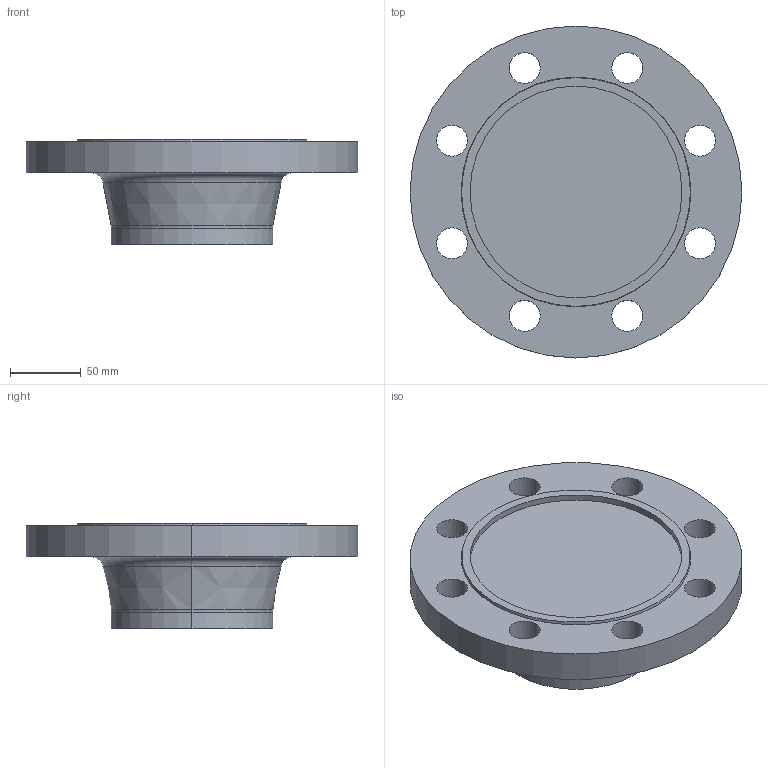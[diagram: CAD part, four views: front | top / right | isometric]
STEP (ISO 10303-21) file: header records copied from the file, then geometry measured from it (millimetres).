
FILE_DESCRIPTION (( 'STEP AP214' ), '1' );
FILE_NAME ('PN40 DN100 Type 21(ii) - Type F Face.STEP', '2019-01-02T00:12:15', ( '' ), ( '' ), 'SwSTEP 2.0', 'SolidWorks 2019', '' );
FILE_SCHEMA (( 'AUTOMOTIVE_DESIGN' ));
Length unit declared in the file: millimetre
Products named in the file (1): PN40 DN100 Type 21(ii) - Type F Face
Bounding box: 235 x 235 x 75 mm (x, y, z)
Volume: 1427774.6 mm3; surface area: 127865.3 mm2
Topology: 1 solids, 1 shells, 35 faces, 84 edges, 54 vertices
Faces by surface type: cylinder 22, plane 5, torus 4, cone 4
Entity records: 1114 total; most frequent: DIRECTION 214, CARTESIAN_POINT 174, ORIENTED_EDGE 168, AXIS2_PLACEMENT_3D 94, EDGE_CURVE 84, CIRCLE 58, EDGE_LOOP 54, VERTEX_POINT 54
